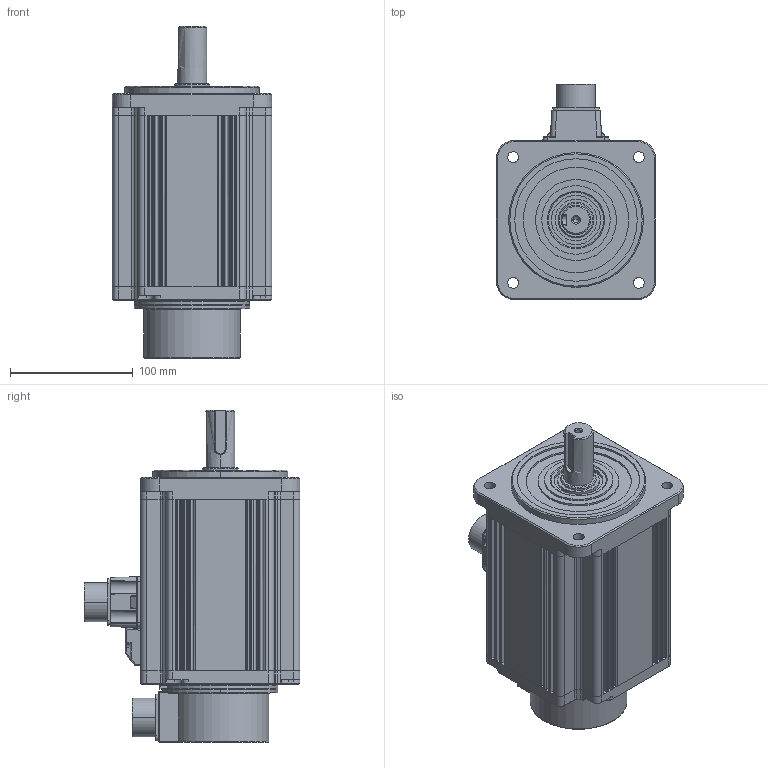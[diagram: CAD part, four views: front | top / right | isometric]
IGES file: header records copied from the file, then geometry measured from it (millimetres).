
Start section:  PTC IGES file: ECMA-KX1320S4.igs
Global section: file name: ECMA-KX1320S4.igs; native system: Pro/ENGINEER by Parametric Technology Corporation; preprocessor: 2010180; author: MIO.CHEN; organization: Unknown; date: 20141222.181600; units: millimetre
Bounding box: 130 x 176.14 x 271 mm (x, y, z)
Volume: 2923184.8 mm3; surface area: 173058.9 mm2
Topology: 1 solids, 1 shells, 623 faces, 1556 edges, 931 vertices
Faces by surface type: revolution 321, bspline 302
